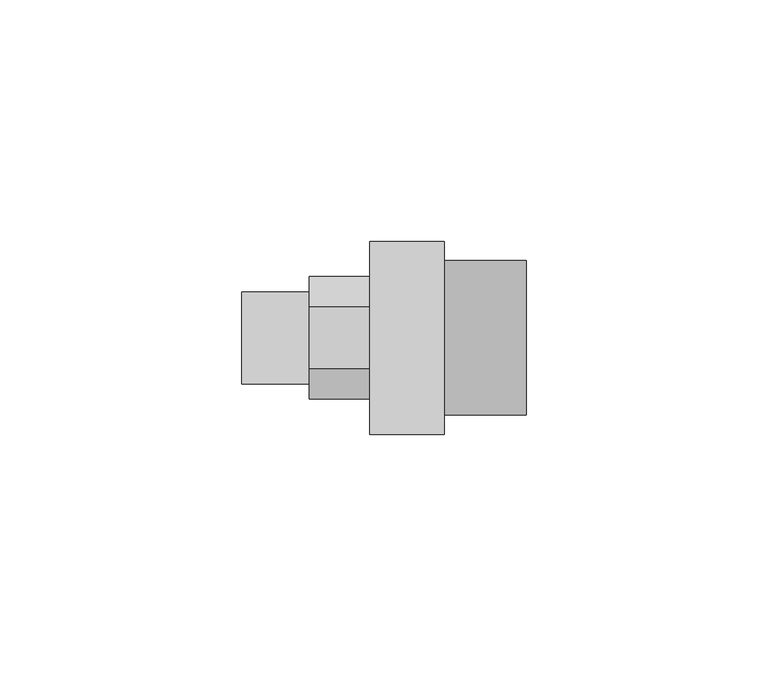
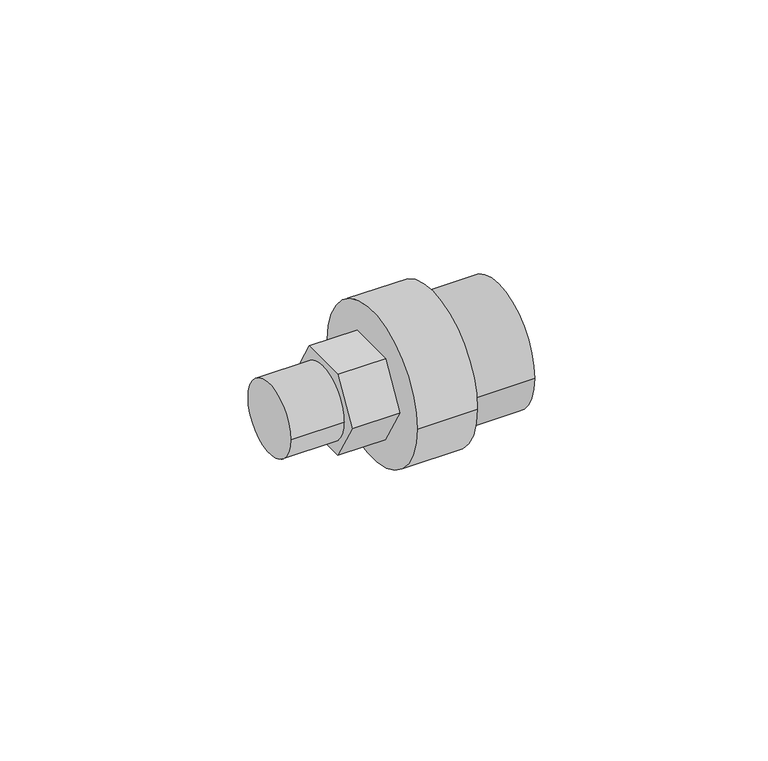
"""IFC4 building model written with IfcOpenShell, lengths in millimetres: pipe fitting geometry, 01011279 : Enlaces 3 piezas para piscinas F/M."""

from ifc_helpers import new_model, si_unit, point, frame, origin, origin_2d, place, context, project, spatial, polyline, circle_curve, trimmed, segment, composite_curve, outline, extrude, source, transform, mapped, element, save


def pipe_fitting_0b8b121f(model_context):
    return source(origin(), model_context, "Body", "SweptSolid", [
        extrude(outline(composite_curve([segment(trimmed(circle_curve(origin_2d(), 20.0), [point((20.0, 0.0))], [point((-20.0, 0.0))], False, "CARTESIAN"), True, "CONTINUOUS"), segment(trimmed(circle_curve(origin_2d(), 20.0), [point((-20.0, 0.0))], [point((20.0, 0.0))], False, "CARTESIAN"), True, "CONTINUOUS")], self_intersect=False)), frame((-12.5, 0.0, 0.0), z_axis=(1.0, 0.0, 0.0), x_axis=(0.0, 1.0, 0.0)), (0.0, 0.0, 1.0), 15.5),
        extrude(outline(polyline([(-6.350853, 11.0), (6.350853, 11.0), (12.7017059, 0.0), (6.350853, -11.0), (-6.350853, -11.0), (-12.7017059, 0.0), (-6.350853, 11.0)])), frame((-25.0, 0.0, 0.0), z_axis=(1.0, 0.0, 0.0), x_axis=(0.0, 1.0, 0.0)), (0.0, 0.0, 1.0), 12.5),
        extrude(outline(composite_curve([segment(trimmed(circle_curve(origin_2d(), 9.5), [point((9.5, 0.0))], [point((-9.5, 0.0))], False, "CARTESIAN"), True, "CONTINUOUS"), segment(trimmed(circle_curve(origin_2d(), 9.5), [point((-9.5, 0.0))], [point((9.5, 0.0))], False, "CARTESIAN"), True, "CONTINUOUS")], self_intersect=False)), frame((-39.0, 0.0, 0.0), z_axis=(1.0, 0.0, 0.0), x_axis=(0.0, 1.0, 0.0)), (0.0, 0.0, 1.0), 14.0),
        extrude(outline(composite_curve([segment(trimmed(circle_curve(origin_2d(), 16.0), [point((-16.0, 0.0))], [point((16.0, 0.0))], False, "CARTESIAN"), True, "CONTINUOUS"), segment(trimmed(circle_curve(origin_2d(), 16.0), [point((16.0, 0.0))], [point((-16.0, 0.0))], False, "CARTESIAN"), True, "CONTINUOUS")], self_intersect=False)), frame((3.0, 0.0, 0.0), z_axis=(1.0, 0.0, 0.0), x_axis=(0.0, 1.0, 0.0)), (0.0, 0.0, 1.0), 17.0),
    ])


if __name__ == "__main__":
    model = new_model("IFC4")
    model_context = context("Model", 3, world=origin())
    ifc_project = project(units=[si_unit("LENGTHUNIT", "METRE", prefix="MILLI")], contexts=[model_context])
    site = spatial("IfcSite", under=ifc_project)
    building = spatial("IfcBuilding", under=site)
    placement = place(None, origin())
    pipe_fitting_shape = pipe_fitting_0b8b121f(model_context)
    element("IfcPipeFitting", 1, ObjectType="01011279 : Enlaces 3 piezas para piscinas F/M", at=placement, inside=building, context=model_context, shape_type="MappedRepresentation", body=[
        mapped(pipe_fitting_shape, transform((0.0, 0.0, 0.0), x_axis=(1.0, 0.0, 0.0), y_axis=(0.0, 1.0, 0.0), z_axis=(0.0, 0.0, 1.0))),
    ])
    save(model, "model.ifc")
